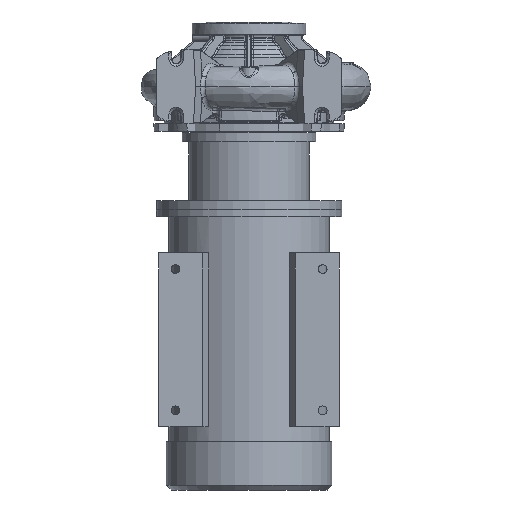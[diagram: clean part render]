
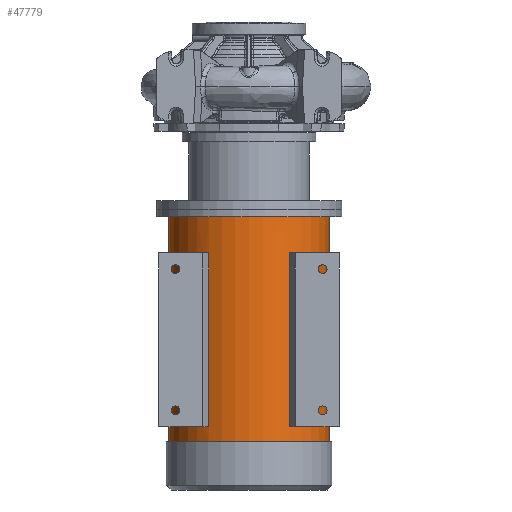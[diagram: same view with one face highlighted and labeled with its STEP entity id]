
A CAD part, front view. The second image highlights one B-rep face of the part: STEP entity #47779.
In plain terms, the highlighted cylindrical face has radius 173.5 mm (diameter 347 mm), a partial arc.
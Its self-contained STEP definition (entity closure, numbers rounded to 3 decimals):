
#347 = CARTESIAN_POINT ( 'NONE',  ( 87.271, -149.953, -733.8 ) ) ;
#390 = VECTOR ( 'NONE', #96097, 1000. ) ;
#2988 = CARTESIAN_POINT ( 'NONE',  ( 173.5, 0., -870.8 ) ) ;
#3090 = EDGE_LOOP ( 'NONE', ( #70402, #10697, #14159, #68991 ) ) ;
#4076 = EDGE_LOOP ( 'NONE', ( #69560, #98672, #65662, #61207 ) ) ;
#4227 = EDGE_CURVE ( 'NONE', #53160, #74988, #101582, .T. ) ;
#4626 = DIRECTION ( 'NONE',  ( 0., 0., 1. ) ) ;
#7327 = CARTESIAN_POINT ( 'NONE',  ( -87.271, -149.953, -733.8 ) ) ;
#9121 = CARTESIAN_POINT ( 'NONE',  ( 100.73, -141.265, -870.8 ) ) ;
#9929 = DIRECTION ( 'NONE',  ( 0., 0., 1. ) ) ;
#10019 = VERTEX_POINT ( 'NONE', #7327 ) ;
#10697 = ORIENTED_EDGE ( 'NONE', *, *, #34501, .T. ) ;
#11481 = CIRCLE ( 'NONE', #108216, 173.5 ) ;
#13158 = ORIENTED_EDGE ( 'NONE', *, *, #42843, .T. ) ;
#14159 = ORIENTED_EDGE ( 'NONE', *, *, #31369, .F. ) ;
#15127 = AXIS2_PLACEMENT_3D ( 'NONE', #89258, #80662, #27126 ) ;
#15934 = VERTEX_POINT ( 'NONE', #108670 ) ;
#17078 = ORIENTED_EDGE ( 'NONE', *, *, #114324, .T. ) ;
#17499 = CIRCLE ( 'NONE', #28051, 173.5 ) ;
#18036 = VERTEX_POINT ( 'NONE', #56407 ) ;
#19168 = LINE ( 'NONE', #42028, #80749 ) ;
#19287 = EDGE_LOOP ( 'NONE', ( #40917, #54508, #13158, #17078 ) ) ;
#19362 = CARTESIAN_POINT ( 'NONE',  ( 173.5, 0., -766.8 ) ) ;
#20055 = LINE ( 'NONE', #60044, #390 ) ;
#20994 = DIRECTION ( 'NONE',  ( 0., 0., -1. ) ) ;
#21218 = DIRECTION ( 'NONE',  ( -1., 0., 0. ) ) ;
#21841 = CARTESIAN_POINT ( 'NONE',  ( 0., 0., -733.8 ) ) ;
#22255 = DIRECTION ( 'NONE',  ( -1., 0., 0. ) ) ;
#23001 = LINE ( 'NONE', #2988, #115406 ) ;
#26809 = CARTESIAN_POINT ( 'NONE',  ( -100.73, -141.265, -358.8 ) ) ;
#27126 = DIRECTION ( 'NONE',  ( -1., 0., 0. ) ) ;
#28051 = AXIS2_PLACEMENT_3D ( 'NONE', #75770, #30097, #22255 ) ;
#28892 = AXIS2_PLACEMENT_3D ( 'NONE', #35225, #105634, #97801 ) ;
#30097 = DIRECTION ( 'NONE',  ( 0., 0., -1. ) ) ;
#31369 = EDGE_CURVE ( 'NONE', #98551, #57289, #19168, .T. ) ;
#32871 = DIRECTION ( 'NONE',  ( 0., 0., -1. ) ) ;
#33640 = VERTEX_POINT ( 'NONE', #82698 ) ;
#34501 = EDGE_CURVE ( 'NONE', #10019, #57289, #11481, .T. ) ;
#35225 = CARTESIAN_POINT ( 'NONE',  ( 0., 0., -766.8 ) ) ;
#37699 = VERTEX_POINT ( 'NONE', #19362 ) ;
#39395 = LINE ( 'NONE', #79991, #71570 ) ;
#40593 = CARTESIAN_POINT ( 'NONE',  ( 100.73, -141.265, -358.8 ) ) ;
#40917 = ORIENTED_EDGE ( 'NONE', *, *, #4227, .F. ) ;
#42028 = CARTESIAN_POINT ( 'NONE',  ( -100.73, -141.265, -870.8 ) ) ;
#42843 = EDGE_CURVE ( 'NONE', #18036, #90298, #94806, .T. ) ;
#44587 = VECTOR ( 'NONE', #100159, 1000. ) ;
#44915 = EDGE_CURVE ( 'NONE', #33640, #37699, #23001, .T. ) ;
#47661 = DIRECTION ( 'NONE',  ( 0., 0., -1. ) ) ;
#47779 = ADVANCED_FACE ( 'NONE', ( #51830, #112005, #88191 ), #89535, .T. ) ;
#48372 = EDGE_CURVE ( 'NONE', #91482, #98551, #61360, .T. ) ;
#51830 = FACE_OUTER_BOUND ( 'NONE', #4076, .T. ) ;
#53160 = VERTEX_POINT ( 'NONE', #347 ) ;
#54508 = ORIENTED_EDGE ( 'NONE', *, *, #88678, .T. ) ;
#56407 = CARTESIAN_POINT ( 'NONE',  ( 87.271, -149.953, -358.8 ) ) ;
#57289 = VERTEX_POINT ( 'NONE', #108779 ) ;
#57909 = LINE ( 'NONE', #9121, #74769 ) ;
#58981 = CARTESIAN_POINT ( 'NONE',  ( 0., 0., -358.8 ) ) ;
#60044 = CARTESIAN_POINT ( 'NONE',  ( 87.271, -149.953, -870.8 ) ) ;
#61207 = ORIENTED_EDGE ( 'NONE', *, *, #97077, .F. ) ;
#61360 = CIRCLE ( 'NONE', #114182, 173.5 ) ;
#61813 = CARTESIAN_POINT ( 'NONE',  ( -173.5, 0., -870.8 ) ) ;
#62479 = VERTEX_POINT ( 'NONE', #90580 ) ;
#64573 = AXIS2_PLACEMENT_3D ( 'NONE', #74509, #20994, #76834 ) ;
#65552 = DIRECTION ( 'NONE',  ( 1., 0., 0. ) ) ;
#65662 = ORIENTED_EDGE ( 'NONE', *, *, #67912, .T. ) ;
#67912 = EDGE_CURVE ( 'NONE', #15934, #62479, #87959, .T. ) ;
#68991 = ORIENTED_EDGE ( 'NONE', *, *, #48372, .F. ) ;
#69560 = ORIENTED_EDGE ( 'NONE', *, *, #44915, .F. ) ;
#70402 = ORIENTED_EDGE ( 'NONE', *, *, #80241, .F. ) ;
#71570 = VECTOR ( 'NONE', #9929, 1000. ) ;
#74509 = CARTESIAN_POINT ( 'NONE',  ( 0., 0., -870.8 ) ) ;
#74769 = VECTOR ( 'NONE', #81119, 1000. ) ;
#74988 = VERTEX_POINT ( 'NONE', #97327 ) ;
#75770 = CARTESIAN_POINT ( 'NONE',  ( 0., 0., -280.8 ) ) ;
#76834 = DIRECTION ( 'NONE',  ( -1., 0., 0. ) ) ;
#77378 = DIRECTION ( 'NONE',  ( 1., 0., 0. ) ) ;
#79991 = CARTESIAN_POINT ( 'NONE',  ( -87.271, -149.953, -870.8 ) ) ;
#80241 = EDGE_CURVE ( 'NONE', #10019, #91482, #39395, .T. ) ;
#80662 = DIRECTION ( 'NONE',  ( 0., 0., 1. ) ) ;
#80749 = VECTOR ( 'NONE', #95225, 1000. ) ;
#81119 = DIRECTION ( 'NONE',  ( 0., 0., -1. ) ) ;
#82698 = CARTESIAN_POINT ( 'NONE',  ( 173.5, 0., -280.8 ) ) ;
#86009 = DIRECTION ( 'NONE',  ( 0., 0., -1. ) ) ;
#87959 = LINE ( 'NONE', #61813, #44587 ) ;
#88191 = FACE_BOUND ( 'NONE', #3090, .T. ) ;
#88678 = EDGE_CURVE ( 'NONE', #53160, #18036, #20055, .T. ) ;
#89258 = CARTESIAN_POINT ( 'NONE',  ( 0., 0., -733.8 ) ) ;
#89535 = CYLINDRICAL_SURFACE ( 'NONE', #64573, 173.5 ) ;
#90298 = VERTEX_POINT ( 'NONE', #40593 ) ;
#90580 = CARTESIAN_POINT ( 'NONE',  ( -173.5, 0., -766.8 ) ) ;
#91482 = VERTEX_POINT ( 'NONE', #92882 ) ;
#92882 = CARTESIAN_POINT ( 'NONE',  ( -87.271, -149.953, -358.8 ) ) ;
#94806 = CIRCLE ( 'NONE', #106158, 173.5 ) ;
#95225 = DIRECTION ( 'NONE',  ( 0., 0., -1. ) ) ;
#96097 = DIRECTION ( 'NONE',  ( 0., 0., 1. ) ) ;
#97077 = EDGE_CURVE ( 'NONE', #37699, #62479, #111000, .T. ) ;
#97327 = CARTESIAN_POINT ( 'NONE',  ( 100.73, -141.265, -733.8 ) ) ;
#97801 = DIRECTION ( 'NONE',  ( -1., 0., 0. ) ) ;
#98551 = VERTEX_POINT ( 'NONE', #26809 ) ;
#98672 = ORIENTED_EDGE ( 'NONE', *, *, #102013, .T. ) ;
#100159 = DIRECTION ( 'NONE',  ( 0., 0., -1. ) ) ;
#101582 = CIRCLE ( 'NONE', #15127, 173.5 ) ;
#102013 = EDGE_CURVE ( 'NONE', #33640, #15934, #17499, .T. ) ;
#105634 = DIRECTION ( 'NONE',  ( 0., 0., -1. ) ) ;
#106158 = AXIS2_PLACEMENT_3D ( 'NONE', #111925, #4626, #21218 ) ;
#108216 = AXIS2_PLACEMENT_3D ( 'NONE', #21841, #47661, #65552 ) ;
#108670 = CARTESIAN_POINT ( 'NONE',  ( -173.5, 0., -280.8 ) ) ;
#108779 = CARTESIAN_POINT ( 'NONE',  ( -100.73, -141.265, -733.8 ) ) ;
#111000 = CIRCLE ( 'NONE', #28892, 173.5 ) ;
#111925 = CARTESIAN_POINT ( 'NONE',  ( 0., 0., -358.8 ) ) ;
#112005 = FACE_BOUND ( 'NONE', #19287, .T. ) ;
#114182 = AXIS2_PLACEMENT_3D ( 'NONE', #58981, #32871, #77378 ) ;
#114324 = EDGE_CURVE ( 'NONE', #90298, #74988, #57909, .T. ) ;
#115406 = VECTOR ( 'NONE', #86009, 1000. ) ;
